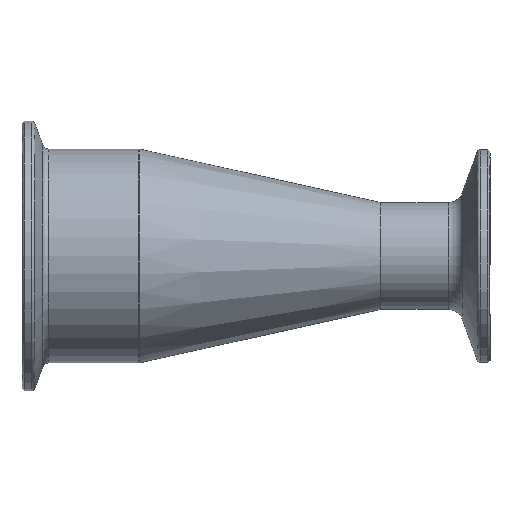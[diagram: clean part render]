
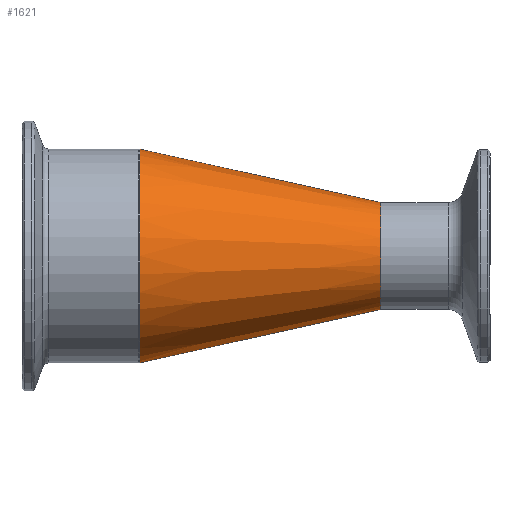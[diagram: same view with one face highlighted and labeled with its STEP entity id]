
A CAD part, top view. The second image highlights one B-rep face of the part: STEP entity #1621.
In plain terms, the highlighted conical face has half-angle 12.502 degrees and reference radius 25.4 mm.
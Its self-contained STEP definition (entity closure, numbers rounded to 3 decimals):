
#4 = DIRECTION ( 'NONE',  ( 1., 0., 0. ) ) ;
#11 = DIRECTION ( 'NONE',  ( 0., -1., 0. ) ) ;
#63 = VERTEX_POINT ( 'NONE', #481 ) ;
#73 = EDGE_CURVE ( 'NONE', #63, #1641, #781, .T. ) ;
#131 = CARTESIAN_POINT ( 'NONE',  ( -26., 12.7, 0. ) ) ;
#150 = VECTOR ( 'NONE', #635, 1000. ) ;
#345 = AXIS2_PLACEMENT_3D ( 'NONE', #393, #4, #11 ) ;
#392 = CARTESIAN_POINT ( 'NONE',  ( -83.275, 25.4, 0. ) ) ;
#393 = CARTESIAN_POINT ( 'NONE',  ( -83.189, 0., 0. ) ) ;
#481 = CARTESIAN_POINT ( 'NONE',  ( -26., -12.7, 0. ) ) ;
#482 = LINE ( 'NONE', #392, #150 ) ;
#486 = VERTEX_POINT ( 'NONE', #131 ) ;
#517 = CARTESIAN_POINT ( 'NONE',  ( -83.275, 0., 0. ) ) ;
#570 = CIRCLE ( 'NONE', #345, 25.381 ) ;
#572 = ORIENTED_EDGE ( 'NONE', *, *, #686, .T. ) ;
#635 = DIRECTION ( 'NONE',  ( -0.976, 0.216, 0. ) ) ;
#656 = CARTESIAN_POINT ( 'NONE',  ( -83.189, 25.381, 0. ) ) ;
#684 = CARTESIAN_POINT ( 'NONE',  ( -83.189, -25.381, 0. ) ) ;
#686 = EDGE_CURVE ( 'NONE', #1277, #1641, #570, .T. ) ;
#748 = AXIS2_PLACEMENT_3D ( 'NONE', #517, #1188, #1194 ) ;
#781 = LINE ( 'NONE', #1392, #1381 ) ;
#802 = CARTESIAN_POINT ( 'NONE',  ( -26., 0., 0. ) ) ;
#888 = ORIENTED_EDGE ( 'NONE', *, *, #1330, .T. ) ;
#946 = ORIENTED_EDGE ( 'NONE', *, *, #1402, .F. ) ;
#956 = CIRCLE ( 'NONE', #1339, 12.7 ) ;
#1161 = DIRECTION ( 'NONE',  ( -0.976, -0.216, 0. ) ) ;
#1180 = ORIENTED_EDGE ( 'NONE', *, *, #73, .F. ) ;
#1188 = DIRECTION ( 'NONE',  ( -1., 0., 0. ) ) ;
#1194 = DIRECTION ( 'NONE',  ( 0., -1., 0. ) ) ;
#1277 = VERTEX_POINT ( 'NONE', #656 ) ;
#1330 = EDGE_CURVE ( 'NONE', #486, #1277, #482, .T. ) ;
#1339 = AXIS2_PLACEMENT_3D ( 'NONE', #802, #1627, #1730 ) ;
#1381 = VECTOR ( 'NONE', #1161, 1000. ) ;
#1391 = EDGE_LOOP ( 'NONE', ( #946, #888, #572, #1180 ) ) ;
#1392 = CARTESIAN_POINT ( 'NONE',  ( -83.275, -25.4, 0. ) ) ;
#1402 = EDGE_CURVE ( 'NONE', #486, #63, #956, .T. ) ;
#1615 = CONICAL_SURFACE ( 'NONE', #748, 25.4, 0.218 ) ;
#1621 = ADVANCED_FACE ( 'NONE', ( #1662 ), #1615, .T. ) ;
#1627 = DIRECTION ( 'NONE',  ( 1., 0., 0. ) ) ;
#1641 = VERTEX_POINT ( 'NONE', #684 ) ;
#1662 = FACE_OUTER_BOUND ( 'NONE', #1391, .T. ) ;
#1730 = DIRECTION ( 'NONE',  ( 0., 1., 0. ) ) ;
